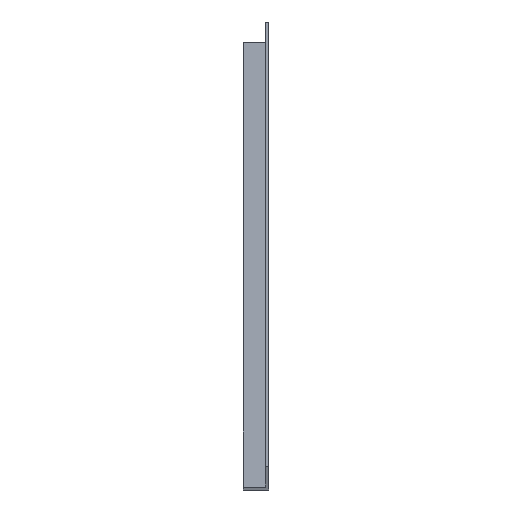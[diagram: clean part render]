
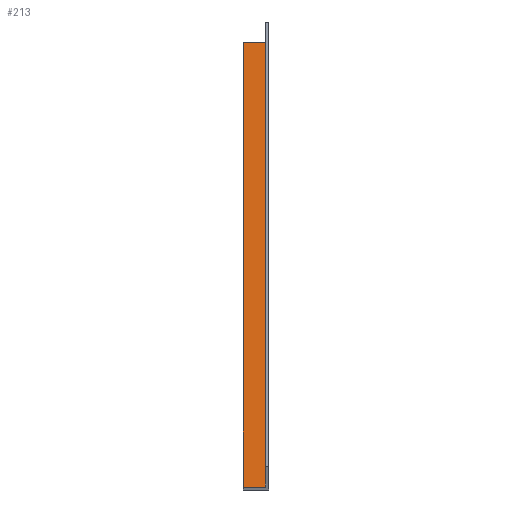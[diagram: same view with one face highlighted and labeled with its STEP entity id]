
A CAD part, front view. The second image highlights one B-rep face of the part: STEP entity #213.
In plain terms, the highlighted planar face has unit normal (0, -0.377, 0.926).
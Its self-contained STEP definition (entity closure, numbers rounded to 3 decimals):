
#72 = PLANE('',#73);
#73 = AXIS2_PLACEMENT_3D('',#74,#75,#76);
#74 = CARTESIAN_POINT('',(-1923.515,1637.135,
    3111.78));
#75 = DIRECTION('',(0.,0.926,0.377));
#76 = DIRECTION('',(0.,-0.377,0.926));
#100 = PLANE('',#101);
#101 = AXIS2_PLACEMENT_3D('',#102,#103,#104);
#102 = CARTESIAN_POINT('',(-1976.2,-1646.,1750.));
#103 = DIRECTION('',(1.,0.,-0.));
#104 = DIRECTION('',(0.,-0.377,0.926));
#126 = PLANE('',#127);
#127 = AXIS2_PLACEMENT_3D('',#128,#129,#130);
#128 = CARTESIAN_POINT('',(-1923.515,-1654.865,
    1771.78));
#129 = DIRECTION('',(0.,0.926,0.377));
#130 = DIRECTION('',(0.,-0.377,0.926));
#143 = VERTEX_POINT('',#144);
#144 = CARTESIAN_POINT('',(-1976.2,1642.409,
    3098.822));
#165 = EDGE_CURVE('',#166,#143,#168,.T.);
#166 = VERTEX_POINT('',#167);
#167 = CARTESIAN_POINT('',(-1976.2,-1649.591,
    1758.822));
#168 = SURFACE_CURVE('',#169,(#173,#180),.PCURVE_S1.);
#169 = LINE('',#170,#171);
#170 = CARTESIAN_POINT('',(-1976.2,-1649.591,
    1758.822));
#171 = VECTOR('',#172,1.);
#172 = DIRECTION('',(0.,0.926,0.377));
#173 = PCURVE('',#100,#174);
#174 = DEFINITIONAL_REPRESENTATION('',(#175),#179);
#175 = LINE('',#176,#177);
#176 = CARTESIAN_POINT('',(9.525,0.));
#177 = VECTOR('',#178,1.);
#178 = DIRECTION('',(0.,-1.));
#179 = ( GEOMETRIC_REPRESENTATION_CONTEXT(2) 
PARAMETRIC_REPRESENTATION_CONTEXT() REPRESENTATION_CONTEXT('2D SPACE',''
  ) );
#180 = PCURVE('',#181,#186);
#181 = PLANE('',#182);
#182 = AXIS2_PLACEMENT_3D('',#183,#184,#185);
#183 = CARTESIAN_POINT('',(-1976.2,-1649.591,
    1758.822));
#184 = DIRECTION('',(0.,0.377,-0.926));
#185 = DIRECTION('',(1.,0.,0.));
#186 = DEFINITIONAL_REPRESENTATION('',(#187),#191);
#187 = LINE('',#188,#189);
#188 = CARTESIAN_POINT('',(0.,0.));
#189 = VECTOR('',#190,1.);
#190 = DIRECTION('',(0.,-1.));
#191 = ( GEOMETRIC_REPRESENTATION_CONTEXT(2) 
PARAMETRIC_REPRESENTATION_CONTEXT() REPRESENTATION_CONTEXT('2D SPACE',''
  ) );
#213 = ADVANCED_FACE('',(#214),#181,.F.);
#214 = FACE_BOUND('',#215,.F.);
#215 = EDGE_LOOP('',(#216,#217,#240,#268));
#216 = ORIENTED_EDGE('',*,*,#165,.T.);
#217 = ORIENTED_EDGE('',*,*,#218,.T.);
#218 = EDGE_CURVE('',#143,#219,#221,.T.);
#219 = VERTEX_POINT('',#220);
#220 = CARTESIAN_POINT('',(-1909.525,1642.409,
    3098.822));
#221 = SURFACE_CURVE('',#222,(#226,#233),.PCURVE_S1.);
#222 = LINE('',#223,#224);
#223 = CARTESIAN_POINT('',(-1976.2,1642.409,
    3098.822));
#224 = VECTOR('',#225,1.);
#225 = DIRECTION('',(1.,0.,0.));
#226 = PCURVE('',#181,#227);
#227 = DEFINITIONAL_REPRESENTATION('',(#228),#232);
#228 = LINE('',#229,#230);
#229 = CARTESIAN_POINT('',(0.,-3554.274));
#230 = VECTOR('',#231,1.);
#231 = DIRECTION('',(1.,0.));
#232 = ( GEOMETRIC_REPRESENTATION_CONTEXT(2) 
PARAMETRIC_REPRESENTATION_CONTEXT() REPRESENTATION_CONTEXT('2D SPACE',''
  ) );
#233 = PCURVE('',#72,#234);
#234 = DEFINITIONAL_REPRESENTATION('',(#235),#239);
#235 = LINE('',#236,#237);
#236 = CARTESIAN_POINT('',(-13.99,-52.685));
#237 = VECTOR('',#238,1.);
#238 = DIRECTION('',(0.,1.));
#239 = ( GEOMETRIC_REPRESENTATION_CONTEXT(2) 
PARAMETRIC_REPRESENTATION_CONTEXT() REPRESENTATION_CONTEXT('2D SPACE',''
  ) );
#240 = ORIENTED_EDGE('',*,*,#241,.F.);
#241 = EDGE_CURVE('',#242,#219,#244,.T.);
#242 = VERTEX_POINT('',#243);
#243 = CARTESIAN_POINT('',(-1909.525,-1649.591,
    1758.822));
#244 = SURFACE_CURVE('',#245,(#249,#256),.PCURVE_S1.);
#245 = LINE('',#246,#247);
#246 = CARTESIAN_POINT('',(-1909.525,-1649.591,
    1758.822));
#247 = VECTOR('',#248,1.);
#248 = DIRECTION('',(0.,0.926,0.377));
#249 = PCURVE('',#181,#250);
#250 = DEFINITIONAL_REPRESENTATION('',(#251),#255);
#251 = LINE('',#252,#253);
#252 = CARTESIAN_POINT('',(66.675,0.));
#253 = VECTOR('',#254,1.);
#254 = DIRECTION('',(0.,-1.));
#255 = ( GEOMETRIC_REPRESENTATION_CONTEXT(2) 
PARAMETRIC_REPRESENTATION_CONTEXT() REPRESENTATION_CONTEXT('2D SPACE',''
  ) );
#256 = PCURVE('',#257,#262);
#257 = PLANE('',#258);
#258 = AXIS2_PLACEMENT_3D('',#259,#260,#261);
#259 = CARTESIAN_POINT('',(-1909.525,-1649.591,
    1758.822));
#260 = DIRECTION('',(1.,0.,-0.));
#261 = DIRECTION('',(0.,-0.377,0.926));
#262 = DEFINITIONAL_REPRESENTATION('',(#263),#267);
#263 = LINE('',#264,#265);
#264 = CARTESIAN_POINT('',(0.,0.));
#265 = VECTOR('',#266,1.);
#266 = DIRECTION('',(0.,-1.));
#267 = ( GEOMETRIC_REPRESENTATION_CONTEXT(2) 
PARAMETRIC_REPRESENTATION_CONTEXT() REPRESENTATION_CONTEXT('2D SPACE',''
  ) );
#268 = ORIENTED_EDGE('',*,*,#269,.F.);
#269 = EDGE_CURVE('',#166,#242,#270,.T.);
#270 = SURFACE_CURVE('',#271,(#275,#282),.PCURVE_S1.);
#271 = LINE('',#272,#273);
#272 = CARTESIAN_POINT('',(-1976.2,-1649.591,
    1758.822));
#273 = VECTOR('',#274,1.);
#274 = DIRECTION('',(1.,0.,0.));
#275 = PCURVE('',#181,#276);
#276 = DEFINITIONAL_REPRESENTATION('',(#277),#281);
#277 = LINE('',#278,#279);
#278 = CARTESIAN_POINT('',(0.,0.));
#279 = VECTOR('',#280,1.);
#280 = DIRECTION('',(1.,0.));
#281 = ( GEOMETRIC_REPRESENTATION_CONTEXT(2) 
PARAMETRIC_REPRESENTATION_CONTEXT() REPRESENTATION_CONTEXT('2D SPACE',''
  ) );
#282 = PCURVE('',#126,#283);
#283 = DEFINITIONAL_REPRESENTATION('',(#284),#288);
#284 = LINE('',#285,#286);
#285 = CARTESIAN_POINT('',(-13.99,-52.685));
#286 = VECTOR('',#287,1.);
#287 = DIRECTION('',(0.,1.));
#288 = ( GEOMETRIC_REPRESENTATION_CONTEXT(2) 
PARAMETRIC_REPRESENTATION_CONTEXT() REPRESENTATION_CONTEXT('2D SPACE',''
  ) );
